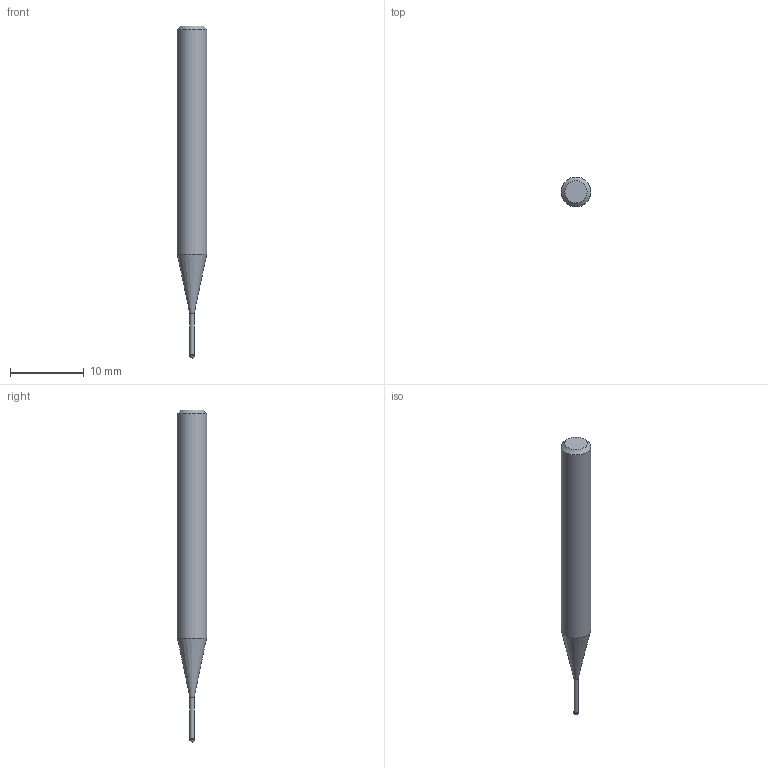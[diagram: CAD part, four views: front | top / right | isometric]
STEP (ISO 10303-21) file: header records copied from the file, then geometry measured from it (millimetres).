
FILE_DESCRIPTION((''),'2;1');
FILE_NAME('C:\Users\nsx150\AppData\Local\Temp\Mastercam 2021\AP8FW4WOPM\TEMP.step','2024-10-16T18:40:26',(''),(''),'STEP Write','Mastercam 2021 ... CNC Software, Inc.','');
FILE_SCHEMA(('AUTOMOTIVE_DESIGN'));
Length unit declared in the file: millimetre
Products named in the file (1): None
Bounding box: 4 x 4 x 45 mm (x, y, z)
Volume: 427.7 mm3; surface area: 467.4 mm2
Topology: 2 solids, 2 shells, 9 faces, 14 edges, 8 vertices
Faces by surface type: plane 3, cylinder 3, cone 2, sphere 1
Full cylindrical faces by diameter (mm): 0.56 x1, 0.6 x1, 4 x1
Entity records: 211 total; most frequent: DIRECTION 36, CARTESIAN_POINT 25, AXIS2_PLACEMENT_3D 18, ORIENTED_EDGE 14, EDGE_LOOP 14, STYLED_ITEM 12, ADVANCED_FACE 9, FACE_BOUND 8
